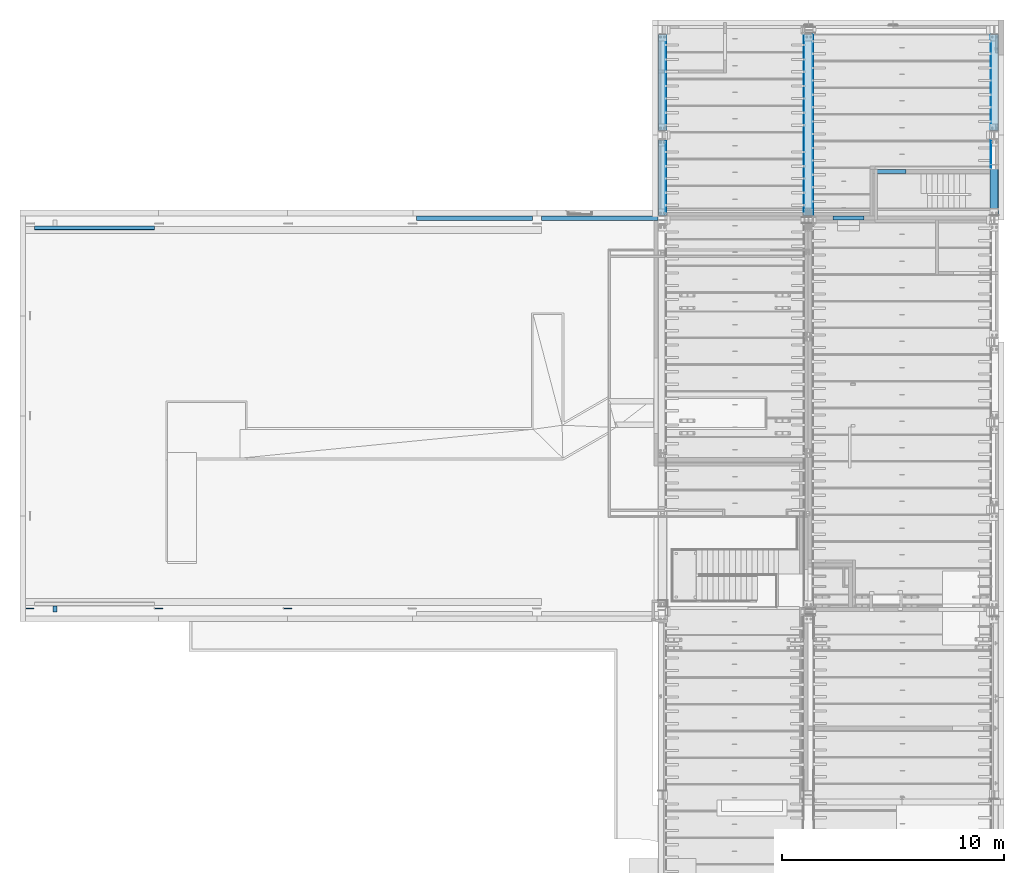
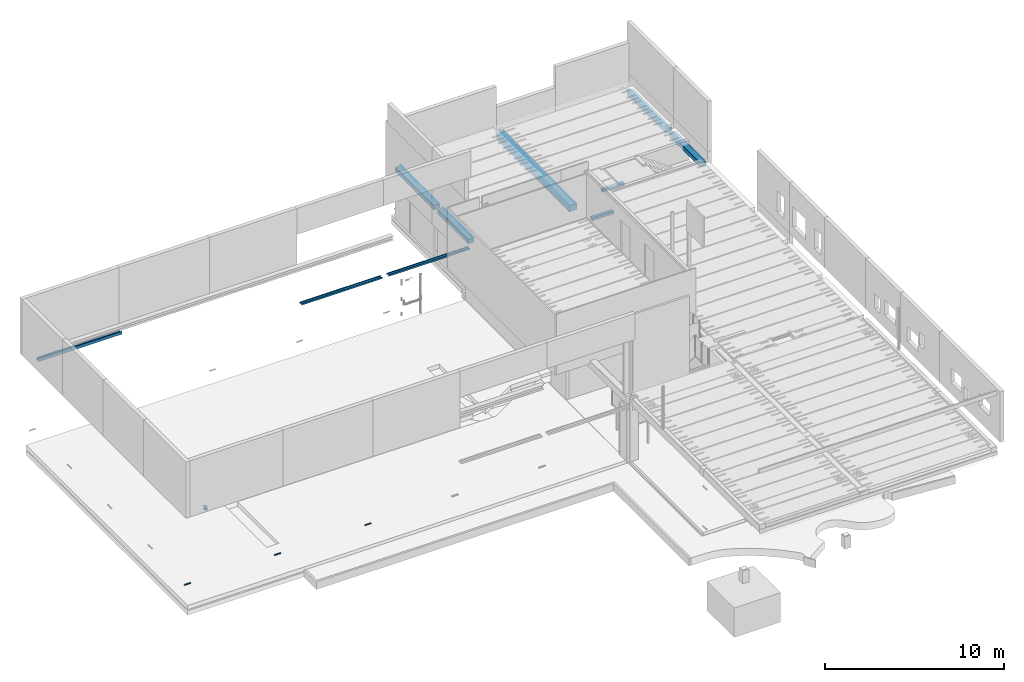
# One storey, part 9 of 230: 20 beams.
"""IFC4X3_ADD2 building model written with IfcOpenShell, lengths in millimetres."""

from ifc_helpers import new_model, si_unit, direction, frame, frame_2d, origin_with_axes, place, context, subcontext, project, spatial, indexed_curve, rectangle, hollow_circle, i_section, outline, extrude, material, element, save


model = new_model("IFC4X3_ADD2")

# Units and contexts
model_context = context("Model", 3, precision=1e-05, world=origin_with_axes(), true_north=direction((0.0, 1.0)))
body_context = subcontext(model_context, "Body", "Model", "MODEL_VIEW")
ifc_project = project(units=[si_unit("LENGTHUNIT", "METRE", prefix="MILLI"), si_unit("AREAUNIT", "SQUARE_METRE"), si_unit("VOLUMEUNIT", "CUBIC_METRE"), si_unit("PLANEANGLEUNIT", "RADIAN"), si_unit("TIMEUNIT", "SECOND"), si_unit("MASSUNIT", "GRAM")], contexts=[model_context])

# Site, building, storey
site_placement = place(None, origin_with_axes())
site = spatial("IfcSite", under=ifc_project, at=site_placement, Name="Site", CompositionType="ELEMENT")
building_placement = place(site_placement, origin_with_axes())
building = spatial("IfcBuilding", under=site, at=building_placement, Name="IFC Building Story")
storey_placement = place(building_placement, origin_with_axes())
storey = spatial("IfcBuildingStorey", under=building, at=storey_placement, Name="ETAGE 00 (0)", Elevation=0.0)

# Beams
ifc_material_1 = material(Name="BS_28_Métal")
beam_1_placement = place(storey_placement, frame((5166.18947818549, 17455.0, 6000.0), z_axis=(1.0, 0.0, 0.0), x_axis=(0.0, 0.0, -1.0)))
element("IfcBeam", 1, at=beam_1_placement, inside=storey, material=ifc_material_1, Name="BS_28_SF_LE_HE-A:HEA200", ObjectType="HEA200 2", context=body_context, shape_type="SweptSolid", body=[
    extrude(i_section(OverallWidth=200.0, OverallDepth=190.0, WebThickness=6.50000000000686, FlangeThickness=10.0000000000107, FilletRadius=18.0000000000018, at=frame_2d((0.0, 5.95523630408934e-12), x_axis=(1.0, 0.0))), origin_with_axes(), (0.0, 0.0, 1.0), 5385.5),
])
ifc_material_2 = material(Name="BS_28_Ossature en béton armé - Eléments coulé sur place")
for number, where, z_axis, x_axis in (
    (2, (44351.689478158, 19995.0000000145, 2750.0), (-1.0, 0.0, 0.0), (0.0, 0.0, -1.0)),
    (3, (42461.6894781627, 17905.0000000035, 2750.0), (-1.0, 0.0, 0.0), (0.0, 0.0, -1.0)),
):
    element("IfcBeam", number, at=place(storey_placement, frame(where, z_axis=z_axis, x_axis=x_axis)), inside=storey, material=ifc_material_2, Name="BS_28_SF_LE_Poutre rectangulaire_coulé:L.P.", ObjectType="L.P.", context=body_context, shape_type="SweptSolid", body=[
        extrude(rectangle(XDim=200.0, YDim=190.0, at=frame_2d((0.0, 5.95523630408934e-12), x_axis=(1.0, 0.0))), origin_with_axes(), (0.0, 0.0, 1.0), 1400.0),
    ])
ifc_material_3 = material(Name="CONCRETE/C50/60 61830")
beam_2_placement = place(storey_placement, frame((39966.189, 26140.0, 3800.0), z_axis=(0.0, -1.0, 0.0), x_axis=(0.0, 0.0, 1.0)))
element("IfcBeam", 4, at=beam_2_placement, inside=storey, material=ifc_material_3, Name="BEAM", ObjectType="EB_R_400*490*15", context=body_context, shape_type="SweptSolid", body=[
    extrude(outline(indexed_curve([(185.0, 244.9999999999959), (200.0, 229.9999999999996), (200.0, -230.0), (185.0, -244.9999999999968), (-185.0, -244.9999999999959), (-200.0, -229.9999999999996), (-199.9999999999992, 229.9999999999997), (-185.0, 244.9999999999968), (185.0, 244.9999999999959)])), origin_with_axes(), (0.0, 0.0, 1.0), 8120.0),
])
beam_3_placement = place(storey_placement, frame((33401.18800000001, 21404.99961090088, 3850.000000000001), z_axis=(0.0, -1.0, 0.0), x_axis=(0.0, 0.0, 1.0)))
element("IfcBeam", 5, at=beam_3_placement, inside=storey, material=ifc_material_3, Name="BEAM", ObjectType="EB_R_300*390*15", context=body_context, shape_type="SweptSolid", body=[
    extrude(outline(indexed_curve([(135.000000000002, 194.9999999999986), (150.0, 179.9999999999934), (150.0, -179.9999999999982), (135.0, -194.9999999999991), (-135.0000000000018, -194.999999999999), (-150.0, -179.9999999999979), (-150.0000000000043, 179.9999999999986), (-134.9999999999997, 194.9999999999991), (135.000000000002, 194.9999999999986)])), origin_with_axes(), (0.0, 0.0, 1.0), 3384.999610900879),
])
beam_4_placement = place(storey_placement, frame((33401.18800000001, 26140.09896240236, 3850.000000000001), z_axis=(0.0, -1.0, 0.0), x_axis=(0.0, 0.0, 1.0)))
element("IfcBeam", 6, at=beam_4_placement, inside=storey, material=ifc_material_3, Name="BEAM", ObjectType="EB_R_300*390*15", context=body_context, shape_type="SweptSolid", body=[
    extrude(outline(indexed_curve([(135.000000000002, 194.9999999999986), (150.0, 179.9999999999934), (150.0, -179.9999999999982), (135.0, -194.9999999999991), (-135.0000000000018, -194.999999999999), (-150.0, -179.9999999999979), (-150.0000000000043, 179.9999999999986), (-134.9999999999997, 194.9999999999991), (135.000000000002, 194.9999999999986)])), origin_with_axes(), (0.0, 0.0, 1.0), 4305.09935150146),
])
beam_5_placement = place(storey_placement, frame((48310.68599999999, 21405.09961090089, 3850.0), z_axis=(0.0, -1.0, 0.0), x_axis=(0.0, 0.0, -1.0)))
element("IfcBeam", 7, at=beam_5_placement, inside=storey, material=ifc_material_3, Name="BEAM", ObjectType="EB_R_300*390*15", context=body_context, shape_type="SweptSolid", body=[
    extrude(outline(indexed_curve([(135.000000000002, 194.9999999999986), (150.0, 179.9999999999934), (150.0, -179.9999999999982), (135.0, -194.9999999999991), (-135.0000000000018, -194.999999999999), (-150.0, -179.9999999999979), (-150.0000000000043, 179.9999999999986), (-134.9999999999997, 194.9999999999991), (135.000000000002, 194.9999999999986)])), origin_with_axes(), (0.0, 0.0, 1.0), 3385.099999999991),
])
beam_6_placement = place(storey_placement, frame((48310.68599999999, 26140.09896240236, 3850.0), z_axis=(0.0, -1.0, 0.0), x_axis=(0.0, 0.0, -1.0)))
element("IfcBeam", 8, at=beam_6_placement, inside=storey, material=ifc_material_3, Name="BEAM", ObjectType="EB_R_300*390*15", context=body_context, shape_type="SweptSolid", body=[
    extrude(outline(indexed_curve([(135.000000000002, 194.9999999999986), (150.0, 179.9999999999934), (150.0, -179.9999999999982), (135.0, -194.9999999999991), (-135.0000000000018, -194.999999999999), (-150.0, -179.9999999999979), (-150.0000000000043, 179.9999999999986), (-134.9999999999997, 194.9999999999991), (135.000000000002, 194.9999999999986)])), origin_with_axes(), (0.0, 0.0, 1.0), 4305.09935150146),
])
beam_7_placement = place(storey_placement, frame((6090.18947818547, 190.2857441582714, 6000.000000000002), z_axis=(0.0, 1.0, 0.0), x_axis=(-1.0, 0.0, 0.0)))
element("IfcBeam", 9, at=beam_7_placement, inside=storey, material=ifc_material_1, Name="BS_28_SF_LE_HE-A:HEA200", ObjectType="HEA200 2", context=body_context, shape_type="SweptSolid", body=[
    extrude(i_section(OverallWidth=200.0, OverallDepth=190.0, WebThickness=6.50000000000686, FlangeThickness=10.0000000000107, FilletRadius=18.0000000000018, at=frame_2d((0.0, 5.95523630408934e-12), x_axis=(1.0, 0.0))), origin_with_axes(), (0.0, 0.0, 1.0), 259.700000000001),
])
beam_8_placement = place(storey_placement, frame((22351.1892084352, 17890.0, 3525.0), z_axis=(1.0, 0.0, 0.0), x_axis=(0.0, 0.0, -1.0)))
element("IfcBeam", 10, at=beam_8_placement, inside=storey, material=ifc_material_1, Name="BS_28_SF_LE_IPE:IPE220", ObjectType="IPE220", context=body_context, shape_type="SweptSolid", body=[
    extrude(i_section(OverallWidth=110.0, OverallDepth=220.0, WebThickness=5.89999999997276, FlangeThickness=9.19999999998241, FilletRadius=12.0, at=frame_2d((0.0, 5.95523630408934e-12), x_axis=(1.0, 0.0))), origin_with_axes(), (0.0, 0.0, 1.0), 5209.99942779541),
])
beam_9_placement = place(storey_placement, frame((33206.188, 17890.0, 3525.0), z_axis=(-1.0, 0.0, 0.0), x_axis=(0.0, 0.0, -1.0)))
element("IfcBeam", 11, at=beam_9_placement, inside=storey, material=ifc_material_1, Name="BS_28_SF_LE_IPE:IPE220", ObjectType="IPE220", context=body_context, shape_type="SweptSolid", body=[
    extrude(i_section(OverallWidth=110.0, OverallDepth=220.0, WebThickness=5.89999999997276, FlangeThickness=9.19999999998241, FilletRadius=12.0, at=frame_2d((0.0, 5.95523630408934e-12), x_axis=(1.0, 0.0))), origin_with_axes(), (0.0, 0.0, 1.0), 5254.999363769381),
])
ifc_material_4 = material(Name="STEEL/Accessory_Rubber")
for number, where, z_axis, x_axis, name in (
    (12, (40151.1936893, 22080.0, 4002.0), (0.999999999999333, -1.155000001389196e-06, 0.0), (0.0, 0.0, -1.0), "NE6"),
    (13, (39751.1751877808, 22079.9999489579, 4002.0), (0.9999999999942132, 3.402000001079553e-06, 0.0), (0.0, 0.0, -1.0), "NE6"),
):
    element("IfcBeam", number, at=place(storey_placement, frame(where, z_axis=z_axis, x_axis=x_axis)), inside=storey, material=ifc_material_4, Name=name, ObjectType="4*30 4", context=body_context, shape_type="SweptSolid", body=[
        extrude(rectangle(XDim=4.0, YDim=8120.00000002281, at=frame_2d((0.0, 5.95523630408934e-12), x_axis=(1.0, 0.0))), origin_with_axes(), (0.0, 0.0, 1.0), 30.0),
    ])
beam_10_placement = place(storey_placement, frame((33536.188, 19712.5, 4002.0), z_axis=(1.0, 0.0, 0.0), x_axis=(0.0, 0.0, -1.0)))
element("IfcBeam", 14, at=beam_10_placement, inside=storey, material=ifc_material_4, Name="NE6", ObjectType="4*30 7", context=body_context, shape_type="SweptSolid", body=[
    extrude(rectangle(XDim=4.0, YDim=3385.0, at=frame_2d((0.0, 5.95523630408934e-12), x_axis=(1.0, 0.0))), origin_with_axes(), (0.0, 0.0, 1.0), 30.0),
])
beam_11_placement = place(storey_placement, frame((33536.188, 23987.5491109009, 4002.0), z_axis=(1.0, 0.0, 0.0), x_axis=(0.0, 0.0, -1.0)))
element("IfcBeam", 15, at=beam_11_placement, inside=storey, material=ifc_material_4, Name="NE6", ObjectType="4*30 8", context=body_context, shape_type="SweptSolid", body=[
    extrude(rectangle(XDim=4.0, YDim=4305.099, at=frame_2d((0.0, 5.95523630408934e-12), x_axis=(1.0, 0.0))), origin_with_axes(), (0.0, 0.0, 1.0), 30.0),
])
beam_12_placement = place(storey_placement, frame((48145.68599999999, 20779.9996109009, 4002.0), z_axis=(1.0, 0.0, 0.0), x_axis=(0.0, 0.0, 1.0)))
element("IfcBeam", 16, at=beam_12_placement, inside=storey, material=ifc_material_4, Name="NE6", ObjectType="4*30 9", context=body_context, shape_type="SweptSolid", body=[
    extrude(rectangle(XDim=4.0, YDim=1250.00000000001, at=frame_2d((0.0, 5.95523630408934e-12), x_axis=(1.0, 0.0))), origin_with_axes(), (0.0, 0.0, 1.0), 29.99999999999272),
])
beam_13_placement = place(storey_placement, frame((48145.68599999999, 23987.5491109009, 4002.0), z_axis=(1.0, 0.0, 0.0), x_axis=(0.0, 0.0, -1.0)))
element("IfcBeam", 17, at=beam_13_placement, inside=storey, material=ifc_material_4, Name="NE6", ObjectType="4*30 8", context=body_context, shape_type="SweptSolid", body=[
    extrude(rectangle(XDim=4.0, YDim=4305.099, at=frame_2d((0.0, 5.95523630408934e-12), x_axis=(1.0, 0.0))), origin_with_axes(), (0.0, 0.0, 1.0), 29.99999999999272),
])
ifc_material_5 = material(Name="STEEL/Accessory_PVC")
for number, where, z_axis, x_axis, name in (
    (18, (4769.18934827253, 349.999963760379, 1190.0), (1.0, 0.0, 0.0), (0.0, 0.0, -1.0), "PS13"),
    (19, (10564.1886362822, 349.999963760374, 1190.0), (1.0, 0.0, 0.0), (0.0, 0.0, -1.0), "PS13"),
):
    element("IfcBeam", number, at=place(storey_placement, frame(where, z_axis=z_axis, x_axis=x_axis)), inside=storey, material=ifc_material_5, Name=name, ObjectType="O56*3", context=body_context, shape_type="SweptSolid", body=[
        extrude(hollow_circle(Radius=28.0, WallThickness=3.0, at=frame_2d((0.0, 5.95523630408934e-12), x_axis=(1.0, 0.0))), origin_with_axes(), (0.0, 0.0, 1.0), 384.0),
    ])
beam_14_placement = place(storey_placement, frame((16364.188827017, 349.999963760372, 1190.0), z_axis=(1.0, 0.0, 0.0), x_axis=(0.0, 0.0, -1.0)))
element("IfcBeam", 20, at=beam_14_placement, inside=storey, material=ifc_material_5, Name="PS13", ObjectType="O56*3", context=body_context, shape_type="SweptSolid", body=[
    extrude(hollow_circle(Radius=28.0, WallThickness=3.0, at=frame_2d((0.0, 5.95523630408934e-12), x_axis=(1.0, 0.0))), origin_with_axes(), (0.0, 0.0, 1.0), 383.9999999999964),
])

save(model, "model.ifc")
